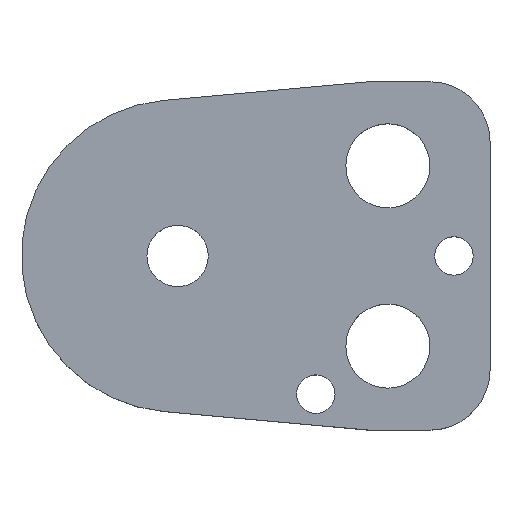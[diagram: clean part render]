
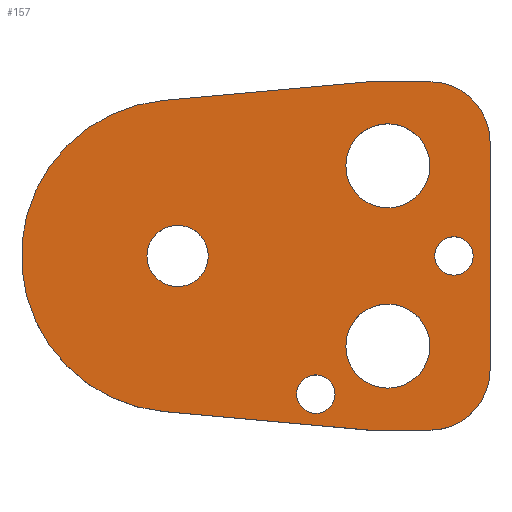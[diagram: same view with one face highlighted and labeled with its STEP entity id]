
A CAD part, top view. The second image highlights one B-rep face of the part: STEP entity #157.
In plain terms, the highlighted planar face has unit normal (0, 0, 1).
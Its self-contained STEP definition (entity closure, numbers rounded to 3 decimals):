
#103=FACE_BOUND('',#207,.T.);
#104=FACE_BOUND('',#208,.T.);
#105=FACE_BOUND('',#209,.T.);
#106=FACE_BOUND('',#210,.T.);
#107=FACE_BOUND('',#211,.T.);
#108=FACE_BOUND('',#212,.T.);
#122=CIRCLE('',#480,10.);
#124=CIRCLE('',#484,10.);
#127=CIRCLE('',#490,26.);
#138=CIRCLE('',#503,3.2);
#139=CIRCLE('',#504,3.2);
#140=CIRCLE('',#505,7.);
#141=CIRCLE('',#506,7.);
#142=CIRCLE('',#507,7.);
#143=CIRCLE('',#508,7.);
#144=CIRCLE('',#509,3.2);
#145=CIRCLE('',#510,3.2);
#146=CIRCLE('',#511,5.1);
#147=CIRCLE('',#512,5.1);
#157=ADVANCED_FACE('',(#103,#104,#105,#106,#107,#108),#174,.T.);
#174=PLANE('',#513);
#207=EDGE_LOOP('',(#273,#274,#275,#276,#277,#278,#279,#280));
#208=EDGE_LOOP('',(#281,#282));
#209=EDGE_LOOP('',(#283,#284));
#210=EDGE_LOOP('',(#285,#286));
#211=EDGE_LOOP('',(#287,#288));
#212=EDGE_LOOP('',(#289,#290));
#273=ORIENTED_EDGE('',*,*,#368,.T.);
#274=ORIENTED_EDGE('',*,*,#372,.T.);
#275=ORIENTED_EDGE('',*,*,#375,.T.);
#276=ORIENTED_EDGE('',*,*,#378,.T.);
#277=ORIENTED_EDGE('',*,*,#381,.T.);
#278=ORIENTED_EDGE('',*,*,#384,.T.);
#279=ORIENTED_EDGE('',*,*,#387,.T.);
#280=ORIENTED_EDGE('',*,*,#390,.T.);
#281=ORIENTED_EDGE('',*,*,#401,.T.);
#282=ORIENTED_EDGE('',*,*,#402,.T.);
#283=ORIENTED_EDGE('',*,*,#403,.T.);
#284=ORIENTED_EDGE('',*,*,#404,.T.);
#285=ORIENTED_EDGE('',*,*,#405,.T.);
#286=ORIENTED_EDGE('',*,*,#406,.T.);
#287=ORIENTED_EDGE('',*,*,#407,.T.);
#288=ORIENTED_EDGE('',*,*,#408,.T.);
#289=ORIENTED_EDGE('',*,*,#409,.T.);
#290=ORIENTED_EDGE('',*,*,#410,.T.);
#332=VERTEX_POINT('',#649);
#333=VERTEX_POINT('',#651);
#336=VERTEX_POINT('',#658);
#338=VERTEX_POINT('',#664);
#340=VERTEX_POINT('',#670);
#342=VERTEX_POINT('',#676);
#344=VERTEX_POINT('',#682);
#346=VERTEX_POINT('',#688);
#357=VERTEX_POINT('',#717);
#358=VERTEX_POINT('',#718);
#359=VERTEX_POINT('',#721);
#360=VERTEX_POINT('',#722);
#361=VERTEX_POINT('',#725);
#362=VERTEX_POINT('',#726);
#363=VERTEX_POINT('',#729);
#364=VERTEX_POINT('',#730);
#365=VERTEX_POINT('',#733);
#366=VERTEX_POINT('',#734);
#368=EDGE_CURVE('',#333,#332,#422,.T.);
#372=EDGE_CURVE('',#332,#336,#426,.T.);
#375=EDGE_CURVE('',#336,#338,#122,.T.);
#378=EDGE_CURVE('',#338,#340,#430,.T.);
#381=EDGE_CURVE('',#340,#342,#124,.T.);
#384=EDGE_CURVE('',#342,#344,#434,.T.);
#387=EDGE_CURVE('',#344,#346,#437,.T.);
#390=EDGE_CURVE('',#346,#333,#127,.T.);
#401=EDGE_CURVE('',#357,#358,#138,.T.);
#402=EDGE_CURVE('',#358,#357,#139,.T.);
#403=EDGE_CURVE('',#359,#360,#140,.T.);
#404=EDGE_CURVE('',#360,#359,#141,.T.);
#405=EDGE_CURVE('',#361,#362,#142,.T.);
#406=EDGE_CURVE('',#362,#361,#143,.T.);
#407=EDGE_CURVE('',#363,#364,#144,.T.);
#408=EDGE_CURVE('',#364,#363,#145,.T.);
#409=EDGE_CURVE('',#365,#366,#146,.T.);
#410=EDGE_CURVE('',#366,#365,#147,.T.);
#422=LINE('',#650,#450);
#426=LINE('',#659,#454);
#430=LINE('',#671,#458);
#434=LINE('',#683,#462);
#437=LINE('',#689,#465);
#450=VECTOR('',#527,1.);
#454=VECTOR('',#533,1.);
#458=VECTOR('',#545,1.);
#462=VECTOR('',#557,1.);
#465=VECTOR('',#562,1.);
#480=AXIS2_PLACEMENT_3D('',#665,#538,#539);
#484=AXIS2_PLACEMENT_3D('',#677,#550,#551);
#490=AXIS2_PLACEMENT_3D('',#693,#568,#569);
#503=AXIS2_PLACEMENT_3D('',#716,#594,#595);
#504=AXIS2_PLACEMENT_3D('',#719,#596,#597);
#505=AXIS2_PLACEMENT_3D('',#720,#598,#599);
#506=AXIS2_PLACEMENT_3D('',#723,#600,#601);
#507=AXIS2_PLACEMENT_3D('',#724,#602,#603);
#508=AXIS2_PLACEMENT_3D('',#727,#604,#605);
#509=AXIS2_PLACEMENT_3D('',#728,#606,#607);
#510=AXIS2_PLACEMENT_3D('',#731,#608,#609);
#511=AXIS2_PLACEMENT_3D('',#732,#610,#611);
#512=AXIS2_PLACEMENT_3D('',#735,#612,#613);
#513=AXIS2_PLACEMENT_3D('',#736,#614,#615);
#527=DIRECTION('',(0.996,-0.09,0.));
#533=DIRECTION('',(1.,0.,0.));
#538=DIRECTION('',(0.,0.,1.));
#539=DIRECTION('',(-0.707,0.707,0.));
#545=DIRECTION('',(0.,1.,0.));
#550=DIRECTION('',(0.,0.,1.));
#551=DIRECTION('',(-0.707,-0.707,0.));
#557=DIRECTION('',(-1.,0.,0.));
#562=DIRECTION('',(-0.996,-0.09,0.));
#568=DIRECTION('',(0.,0.,1.));
#569=DIRECTION('',(1.,0.,0.));
#594=DIRECTION('',(0.,0.,-1.));
#595=DIRECTION('',(-1.,0.,0.));
#596=DIRECTION('',(0.,0.,-1.));
#597=DIRECTION('',(1.,0.,0.));
#598=DIRECTION('',(0.,0.,-1.));
#599=DIRECTION('',(-1.,0.,0.));
#600=DIRECTION('',(0.,0.,-1.));
#601=DIRECTION('',(1.,0.,0.));
#602=DIRECTION('',(0.,0.,-1.));
#603=DIRECTION('',(-1.,0.,0.));
#604=DIRECTION('',(0.,0.,-1.));
#605=DIRECTION('',(1.,0.,0.));
#606=DIRECTION('',(0.,0.,-1.));
#607=DIRECTION('',(-1.,0.,0.));
#608=DIRECTION('',(0.,0.,-1.));
#609=DIRECTION('',(1.,0.,0.));
#610=DIRECTION('',(0.,0.,-1.));
#611=DIRECTION('',(-1.,0.,0.));
#612=DIRECTION('',(0.,0.,-1.));
#613=DIRECTION('',(1.,0.,0.));
#614=DIRECTION('',(0.,0.,1.));
#615=DIRECTION('',(0.996,-0.09,0.));
#649=CARTESIAN_POINT('',(32.,-29.,10.));
#650=CARTESIAN_POINT('',(32.,-29.,10.));
#651=CARTESIAN_POINT('',(-2.342,-25.894,10.));
#658=CARTESIAN_POINT('',(42.,-29.,10.));
#659=CARTESIAN_POINT('',(32.,-29.,10.));
#664=CARTESIAN_POINT('',(52.,-19.,10.));
#665=CARTESIAN_POINT('',(42.,-19.,10.));
#670=CARTESIAN_POINT('',(52.,19.,10.));
#671=CARTESIAN_POINT('',(52.,19.,10.));
#676=CARTESIAN_POINT('',(42.,29.,10.));
#677=CARTESIAN_POINT('',(42.,19.,10.));
#682=CARTESIAN_POINT('',(32.,29.,10.));
#683=CARTESIAN_POINT('',(32.,29.,10.));
#688=CARTESIAN_POINT('',(-2.342,25.894,10.));
#689=CARTESIAN_POINT('',(32.,29.,10.));
#693=CARTESIAN_POINT('',(0.,0.,10.));
#716=CARTESIAN_POINT('',(46.,0.,10.));
#717=CARTESIAN_POINT('',(46.,3.2,10.));
#718=CARTESIAN_POINT('',(46.,-3.2,10.));
#719=CARTESIAN_POINT('',(46.,0.,10.));
#720=CARTESIAN_POINT('',(35.,15.,10.));
#721=CARTESIAN_POINT('',(35.,22.,10.));
#722=CARTESIAN_POINT('',(35.,8.,10.));
#723=CARTESIAN_POINT('',(35.,15.,10.));
#724=CARTESIAN_POINT('',(35.,-15.,10.));
#725=CARTESIAN_POINT('',(35.,-8.,10.));
#726=CARTESIAN_POINT('',(35.,-22.,10.));
#727=CARTESIAN_POINT('',(35.,-15.,10.));
#728=CARTESIAN_POINT('',(23.,-23.,10.));
#729=CARTESIAN_POINT('',(23.,-19.8,10.));
#730=CARTESIAN_POINT('',(23.,-26.2,10.));
#731=CARTESIAN_POINT('',(23.,-23.,10.));
#732=CARTESIAN_POINT('',(0.,0.,10.));
#733=CARTESIAN_POINT('',(0.,5.1,10.));
#734=CARTESIAN_POINT('',(0.,-5.1,10.));
#735=CARTESIAN_POINT('',(0.,0.,10.));
#736=CARTESIAN_POINT('',(-2.342,-25.894,10.));
